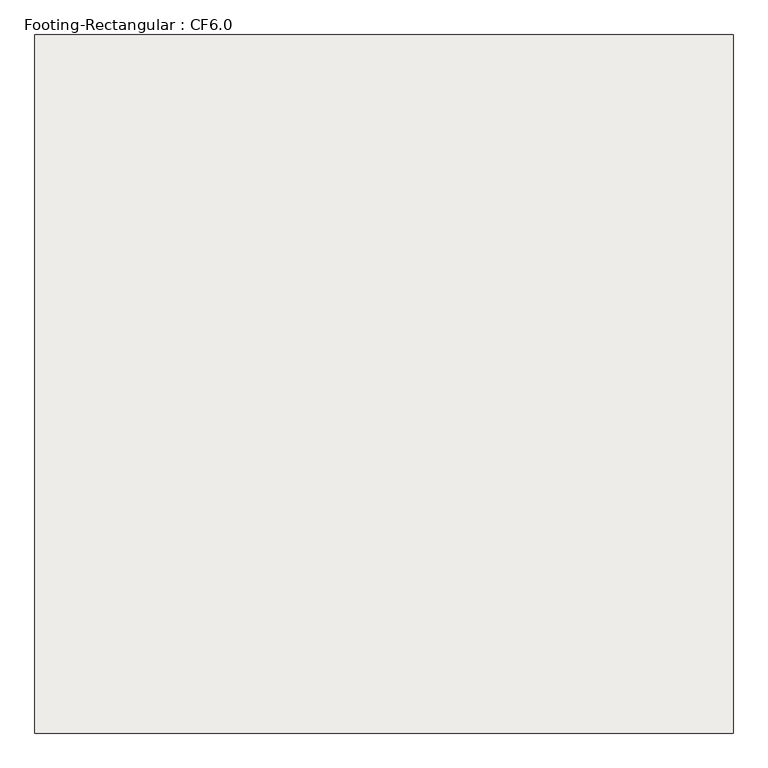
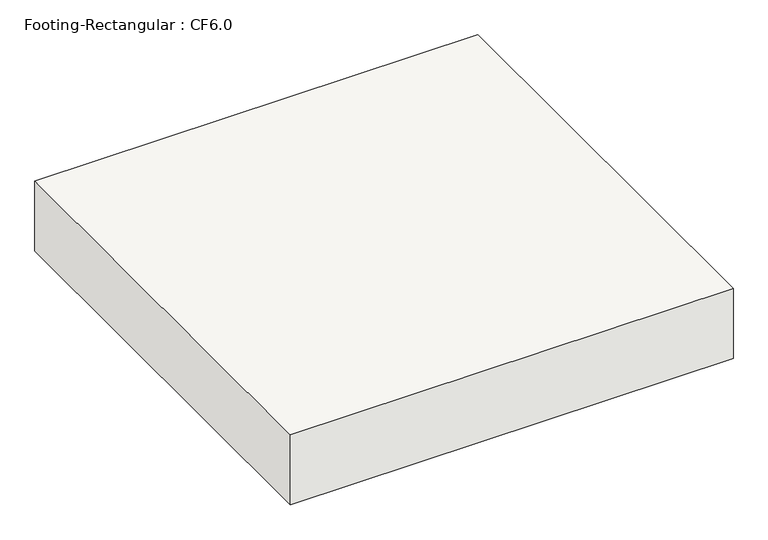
"""IFC4 building model written with IfcOpenShell, lengths in millimetres: slab geometry, Footing-Rectangular : CF6.0."""

from ifc_helpers import new_model, si_unit, frame, origin, place, context, project, spatial, polyline, outline, extrude, source, transform, mapped, element, save


def footing_rectangular_cf6_0_e8c3e57f(model_context):
    return source(origin(), model_context, "Body", "SweptSolid", [
        extrude(outline(polyline([(914.4, 914.4), (914.4, -914.4), (-914.4, -914.4), (-914.4, 914.4), (914.4, 914.4)])), frame((0.0, 0.0, -304.8), z_axis=(0.0, 0.0, 1.0), x_axis=(1.0, 0.0, 0.0)), (0.0, 0.0, 1.0), 304.8),
    ])


if __name__ == "__main__":
    model = new_model("IFC4")
    model_context = context("Model", 3, world=origin())
    ifc_project = project(units=[si_unit("LENGTHUNIT", "METRE", prefix="MILLI")], contexts=[model_context])
    site = spatial("IfcSite", under=ifc_project)
    building = spatial("IfcBuilding", under=site)
    placement = place(None, origin())
    footing_rectangular_cf6_0_shape = footing_rectangular_cf6_0_e8c3e57f(model_context)
    element("IfcSlab", 1, ObjectType="Footing-Rectangular : CF6.0", at=placement, inside=building, context=model_context, shape_type="MappedRepresentation", body=[
        mapped(footing_rectangular_cf6_0_shape, transform((0.0, 0.0, 0.0), x_axis=(1.0, 0.0, 0.0), y_axis=(0.0, 1.0, 0.0), z_axis=(0.0, 0.0, 1.0))),
    ])
    save(model, "model.ifc")
